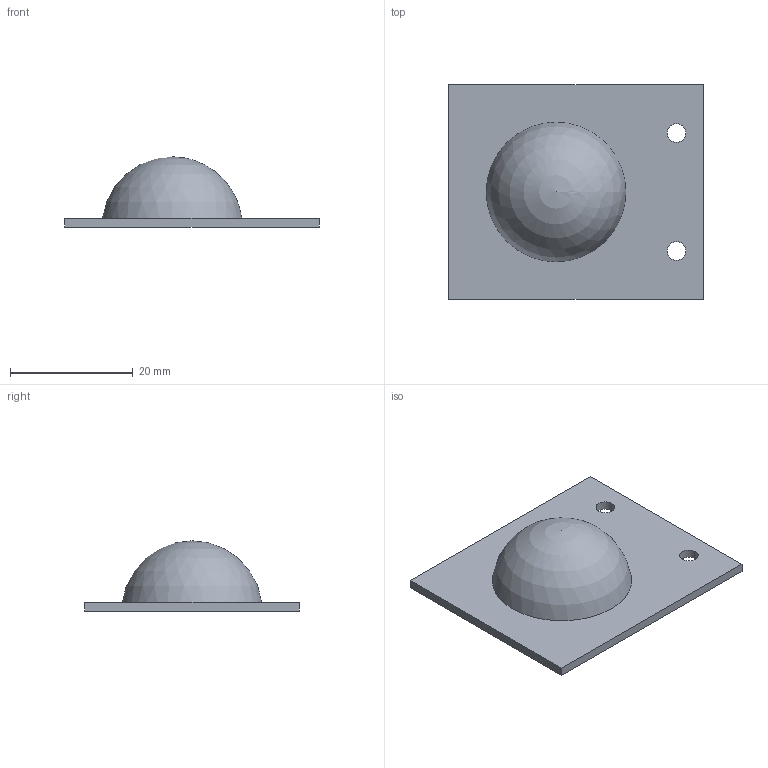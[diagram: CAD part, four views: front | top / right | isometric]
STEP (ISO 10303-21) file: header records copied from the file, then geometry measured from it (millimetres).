
FILE_DESCRIPTION(('HOOPS Exchange Step'),'2;1');
FILE_NAME('C:/Users/a0506362/Desktop/ansys/AOP/final_3d_step files/curved radome polycarbonate.step','2025-02-18T14:54:39+05:30',('a0506362'),('Unknown organisation'),'HOOPS Exchange 2024.0','HOOPS Exchange','Unknown authorisation');
FILE_SCHEMA( ('AP242_MANAGED_MODEL_BASED_3D_ENGINEERING_MIM_LF {1 0 10303 442 1 1 4 }') );
Length unit declared in the file: millimetre
Products named in the file (1): Box1
Bounding box: 41.5 x 35 x 11.46 mm (x, y, z)
Volume: 2528.9 mm3; surface area: 3761.6 mm2
Topology: 1 solids, 1 shells, 11 faces, 27 edges, 18 vertices
Faces by surface type: plane 6, cylinder 3, sphere 2
Full cylindrical faces by diameter (mm): 3.03 x2, 20 x1
Entity records: 389 total; most frequent: DIRECTION 61, CARTESIAN_POINT 56, ORIENTED_EDGE 50, EDGE_CURVE 25, AXIS2_PLACEMENT_3D 23, VERTEX_POINT 18, EDGE_LOOP 17, FACE_BOUND 17
